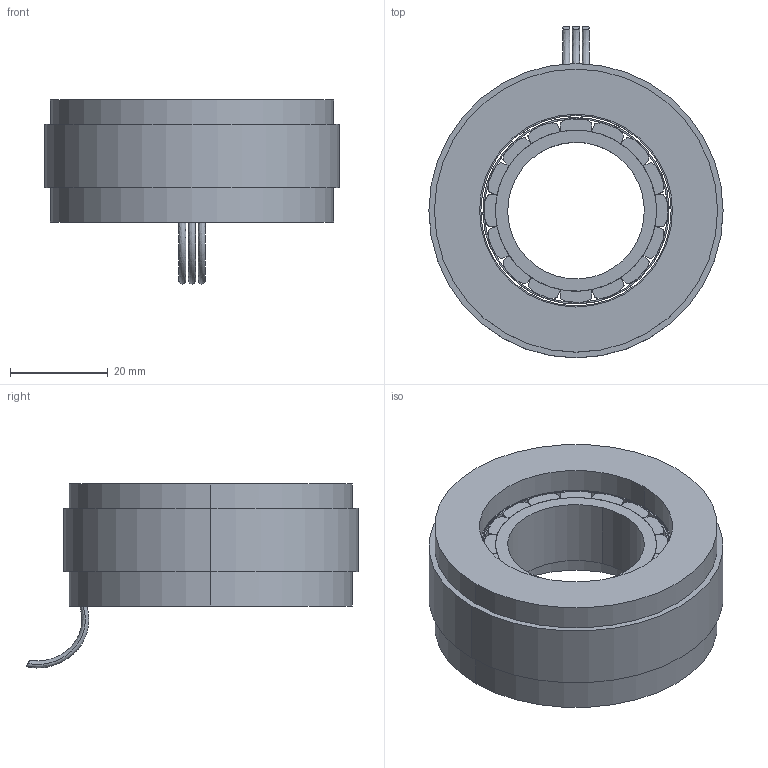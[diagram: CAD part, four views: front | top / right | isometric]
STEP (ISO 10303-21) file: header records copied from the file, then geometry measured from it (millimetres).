
FILE_DESCRIPTION (( 'STEP AP203' ), '1' );
FILE_NAME ('KMF-060AMNN 軞蚾芞潠芞.STEP', '2020-05-15T05:24:58', ( '' ), ( '' ), 'SwSTEP 2.0', 'SolidWorks 2016', '' );
FILE_SCHEMA (( 'CONFIG_CONTROL_DESIGN' ));
Length unit declared in the file: millimetre
Products named in the file (6): KMF009A3001 蛌赽郪璃; KMF009A2001 隅赽郪璃潠芞; KMF-060AMNN 軞蚾芞潠芞; KMF00903401 磁钢（60）; KMF009P1701 抯玹峎杶奪; KMF009P1301 磁轭（60）
Assembly tree (20 placements, depth 3):
  KMF-060AMNN 軞蚾芞潠芞
    KMF009A2001 隅赽郪璃潠芞
    KMF009A3001 蛌赽郪璃
      KMF009P1301 磁轭（60）
      KMF00903401 磁钢（60）  x16
      KMF009P1701 抯玹峎杶奪
Bounding box: 60.3 x 68.02 x 37.71 mm (x, y, z)
Volume: 45843.8 mm3; surface area: 22106.5 mm2
Topology: 19 solids, 19 shells, 199 faces, 462 edges, 308 vertices
Faces by surface type: cylinder 116, plane 77, bspline 6
Entity records: 2900 total; most frequent: CARTESIAN_POINT 711, DIRECTION 294, ORIENTED_EDGE 204, AXIS2_PLACEMENT_3D 131, EDGE_CURVE 102, DATE_AND_TIME 70, CALENDAR_DATE 70, COORDINATED_UNIVERSAL_TIME_OFFSET 70
